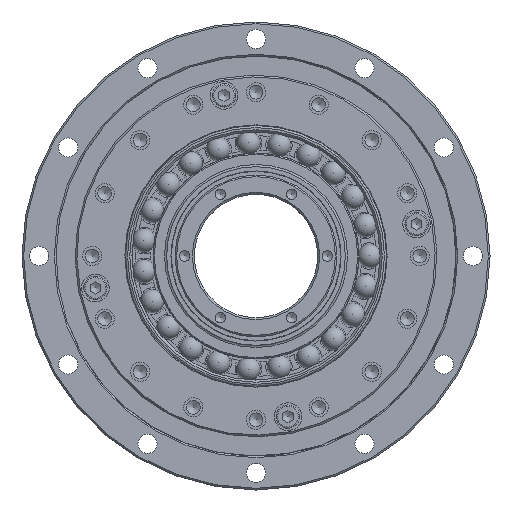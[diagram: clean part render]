
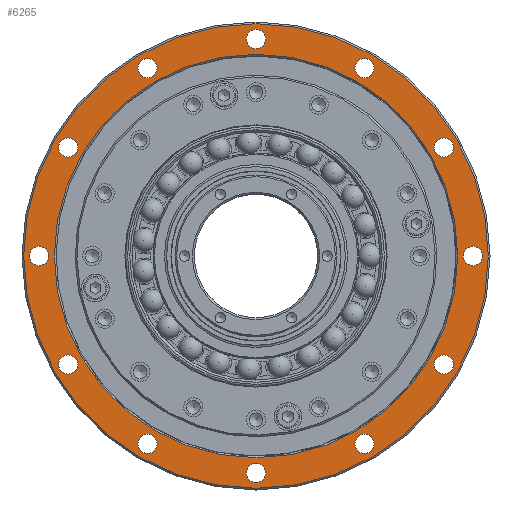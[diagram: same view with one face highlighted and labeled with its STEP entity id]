
A CAD part, left-side view. The second image highlights one B-rep face of the part: STEP entity #6265.
In plain terms, the highlighted planar face has unit normal (-1, 0, 0).
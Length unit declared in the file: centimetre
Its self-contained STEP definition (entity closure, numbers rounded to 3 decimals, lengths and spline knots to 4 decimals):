
#1332=FACE_BOUND($,#1916,.T.);
#1333=FACE_BOUND($,#1917,.T.);
#1334=FACE_BOUND($,#1918,.T.);
#1335=FACE_BOUND($,#1919,.T.);
#1336=FACE_BOUND($,#1920,.T.);
#1337=FACE_BOUND($,#1921,.T.);
#1338=FACE_BOUND($,#1922,.T.);
#1339=FACE_BOUND($,#1923,.T.);
#1340=FACE_BOUND($,#1924,.T.);
#1341=FACE_BOUND($,#1925,.T.);
#1342=FACE_BOUND($,#1926,.T.);
#1343=FACE_BOUND($,#1927,.T.);
#1344=FACE_BOUND($,#1928,.T.);
#1345=FACE_BOUND($,#1929,.T.);
#1916=EDGE_LOOP($,(#5458));
#1917=EDGE_LOOP($,(#5459));
#1918=EDGE_LOOP($,(#5460));
#1919=EDGE_LOOP($,(#5461));
#1920=EDGE_LOOP($,(#5462));
#1921=EDGE_LOOP($,(#5463));
#1922=EDGE_LOOP($,(#5464));
#1923=EDGE_LOOP($,(#5465));
#1924=EDGE_LOOP($,(#5466));
#1925=EDGE_LOOP($,(#5467));
#1926=EDGE_LOOP($,(#5468));
#1927=EDGE_LOOP($,(#5469));
#1928=EDGE_LOOP($,(#5470));
#1929=EDGE_LOOP($,(#5471));
#2638=CIRCLE($,#7208,5.46);
#2639=CIRCLE($,#7210,0.225);
#2640=CIRCLE($,#7211,0.225);
#2641=CIRCLE($,#7212,0.225);
#2642=CIRCLE($,#7213,0.225);
#2643=CIRCLE($,#7214,0.225);
#2644=CIRCLE($,#7215,0.225);
#2645=CIRCLE($,#7216,0.225);
#2646=CIRCLE($,#7217,0.225);
#2647=CIRCLE($,#7218,0.225);
#2648=CIRCLE($,#7219,0.225);
#2649=CIRCLE($,#7220,0.225);
#2650=CIRCLE($,#7221,0.225);
#2651=CIRCLE($,#7222,4.74);
#3164=VERTEX_POINT($,#11125);
#3165=VERTEX_POINT($,#11128);
#3166=VERTEX_POINT($,#11130);
#3167=VERTEX_POINT($,#11132);
#3168=VERTEX_POINT($,#11134);
#3169=VERTEX_POINT($,#11136);
#3170=VERTEX_POINT($,#11138);
#3171=VERTEX_POINT($,#11140);
#3172=VERTEX_POINT($,#11142);
#3173=VERTEX_POINT($,#11144);
#3174=VERTEX_POINT($,#11146);
#3175=VERTEX_POINT($,#11148);
#3176=VERTEX_POINT($,#11150);
#3177=VERTEX_POINT($,#11152);
#3946=EDGE_CURVE($,#3164,#3164,#2638,.T.);
#3947=EDGE_CURVE($,#3165,#3165,#2639,.T.);
#3948=EDGE_CURVE($,#3166,#3166,#2640,.T.);
#3949=EDGE_CURVE($,#3167,#3167,#2641,.T.);
#3950=EDGE_CURVE($,#3168,#3168,#2642,.T.);
#3951=EDGE_CURVE($,#3169,#3169,#2643,.T.);
#3952=EDGE_CURVE($,#3170,#3170,#2644,.T.);
#3953=EDGE_CURVE($,#3171,#3171,#2645,.T.);
#3954=EDGE_CURVE($,#3172,#3172,#2646,.T.);
#3955=EDGE_CURVE($,#3173,#3173,#2647,.T.);
#3956=EDGE_CURVE($,#3174,#3174,#2648,.T.);
#3957=EDGE_CURVE($,#3175,#3175,#2649,.T.);
#3958=EDGE_CURVE($,#3176,#3176,#2650,.T.);
#3959=EDGE_CURVE($,#3177,#3177,#2651,.T.);
#5458=ORIENTED_EDGE($,*,*,#3947,.T.);
#5459=ORIENTED_EDGE($,*,*,#3948,.T.);
#5460=ORIENTED_EDGE($,*,*,#3949,.T.);
#5461=ORIENTED_EDGE($,*,*,#3950,.T.);
#5462=ORIENTED_EDGE($,*,*,#3951,.T.);
#5463=ORIENTED_EDGE($,*,*,#3952,.T.);
#5464=ORIENTED_EDGE($,*,*,#3953,.T.);
#5465=ORIENTED_EDGE($,*,*,#3954,.T.);
#5466=ORIENTED_EDGE($,*,*,#3955,.T.);
#5467=ORIENTED_EDGE($,*,*,#3956,.T.);
#5468=ORIENTED_EDGE($,*,*,#3957,.T.);
#5469=ORIENTED_EDGE($,*,*,#3958,.T.);
#5470=ORIENTED_EDGE($,*,*,#3946,.F.);
#5471=ORIENTED_EDGE($,*,*,#3959,.F.);
#5894=PLANE($,#7209);
#6265=ADVANCED_FACE($,(#1332,#1333,#1334,#1335,#1336,#1337,#1338,#1339,
#1340,#1341,#1342,#1343,#1344,#1345),#5894,.T.);
#7208=AXIS2_PLACEMENT_3D($,#11126,#9180,#9181);
#7209=AXIS2_PLACEMENT_3D($,#11127,#9182,#9183);
#7210=AXIS2_PLACEMENT_3D($,#11129,#9184,#9185);
#7211=AXIS2_PLACEMENT_3D($,#11131,#9186,#9187);
#7212=AXIS2_PLACEMENT_3D($,#11133,#9188,#9189);
#7213=AXIS2_PLACEMENT_3D($,#11135,#9190,#9191);
#7214=AXIS2_PLACEMENT_3D($,#11137,#9192,#9193);
#7215=AXIS2_PLACEMENT_3D($,#11139,#9194,#9195);
#7216=AXIS2_PLACEMENT_3D($,#11141,#9196,#9197);
#7217=AXIS2_PLACEMENT_3D($,#11143,#9198,#9199);
#7218=AXIS2_PLACEMENT_3D($,#11145,#9200,#9201);
#7219=AXIS2_PLACEMENT_3D($,#11147,#9202,#9203);
#7220=AXIS2_PLACEMENT_3D($,#11149,#9204,#9205);
#7221=AXIS2_PLACEMENT_3D($,#11151,#9206,#9207);
#7222=AXIS2_PLACEMENT_3D($,#11153,#9208,#9209);
#9180=DIRECTION('center_axis',(1.,0.,0.));
#9181=DIRECTION('ref_axis',(0.,0.,-1.));
#9182=DIRECTION('center_axis',(-1.,0.,0.));
#9183=DIRECTION('ref_axis',(0.,0.,1.));
#9184=DIRECTION('center_axis',(1.,0.,0.));
#9185=DIRECTION('ref_axis',(0.,0.,-1.));
#9186=DIRECTION('center_axis',(1.,0.,0.));
#9187=DIRECTION('ref_axis',(0.,0.,-1.));
#9188=DIRECTION('center_axis',(1.,0.,0.));
#9189=DIRECTION('ref_axis',(0.,0.,-1.));
#9190=DIRECTION('center_axis',(1.,0.,0.));
#9191=DIRECTION('ref_axis',(0.,0.,-1.));
#9192=DIRECTION('center_axis',(1.,0.,0.));
#9193=DIRECTION('ref_axis',(0.,0.,-1.));
#9194=DIRECTION('center_axis',(1.,0.,0.));
#9195=DIRECTION('ref_axis',(0.,0.,-1.));
#9196=DIRECTION('center_axis',(1.,0.,0.));
#9197=DIRECTION('ref_axis',(0.,0.,-1.));
#9198=DIRECTION('center_axis',(1.,0.,0.));
#9199=DIRECTION('ref_axis',(0.,0.,-1.));
#9200=DIRECTION('center_axis',(1.,0.,0.));
#9201=DIRECTION('ref_axis',(0.,0.,-1.));
#9202=DIRECTION('center_axis',(1.,0.,0.));
#9203=DIRECTION('ref_axis',(0.,0.,-1.));
#9204=DIRECTION('center_axis',(1.,0.,0.));
#9205=DIRECTION('ref_axis',(0.,0.,-1.));
#9206=DIRECTION('center_axis',(1.,0.,0.));
#9207=DIRECTION('ref_axis',(0.,0.,-1.));
#9208=DIRECTION('center_axis',(-1.,0.,0.));
#9209=DIRECTION('ref_axis',(0.,0.,-1.));
#11125=CARTESIAN_POINT('',(-1.87,0.,5.46));
#11126=CARTESIAN_POINT('Origin',(-1.87,0.,0.));
#11127=CARTESIAN_POINT('Origin',(-1.87,0.,4.7));
#11128=CARTESIAN_POINT('',(-1.87,-4.4167,-2.325));
#11129=CARTESIAN_POINT('Origin',(-1.87,-4.4167,-2.55));
#11130=CARTESIAN_POINT('',(-1.87,-4.4167,2.775));
#11131=CARTESIAN_POINT('Origin',(-1.87,-4.4167,2.55));
#11132=CARTESIAN_POINT('',(-1.87,0.,5.325));
#11133=CARTESIAN_POINT('Origin',(-1.87,0.,5.1));
#11134=CARTESIAN_POINT('',(-1.87,4.4167,2.775));
#11135=CARTESIAN_POINT('Origin',(-1.87,4.4167,2.55));
#11136=CARTESIAN_POINT('',(-1.87,4.4167,-2.325));
#11137=CARTESIAN_POINT('Origin',(-1.87,4.4167,-2.55));
#11138=CARTESIAN_POINT('',(-1.87,0.,-4.875));
#11139=CARTESIAN_POINT('Origin',(-1.87,0.,-5.1));
#11140=CARTESIAN_POINT('',(-1.87,2.55,-4.1917));
#11141=CARTESIAN_POINT('Origin',(-1.87,2.55,-4.4167));
#11142=CARTESIAN_POINT('',(-1.87,5.1,0.225));
#11143=CARTESIAN_POINT('Origin',(-1.87,5.1,0.));
#11144=CARTESIAN_POINT('',(-1.87,2.55,4.6417));
#11145=CARTESIAN_POINT('Origin',(-1.87,2.55,4.4167));
#11146=CARTESIAN_POINT('',(-1.87,-2.55,4.6417));
#11147=CARTESIAN_POINT('Origin',(-1.87,-2.55,4.4167));
#11148=CARTESIAN_POINT('',(-1.87,-5.1,0.225));
#11149=CARTESIAN_POINT('Origin',(-1.87,-5.1,0.));
#11150=CARTESIAN_POINT('',(-1.87,-2.55,-4.1917));
#11151=CARTESIAN_POINT('Origin',(-1.87,-2.55,-4.4167));
#11152=CARTESIAN_POINT('',(-1.87,0.,4.74));
#11153=CARTESIAN_POINT('Origin',(-1.87,0.,0.));
